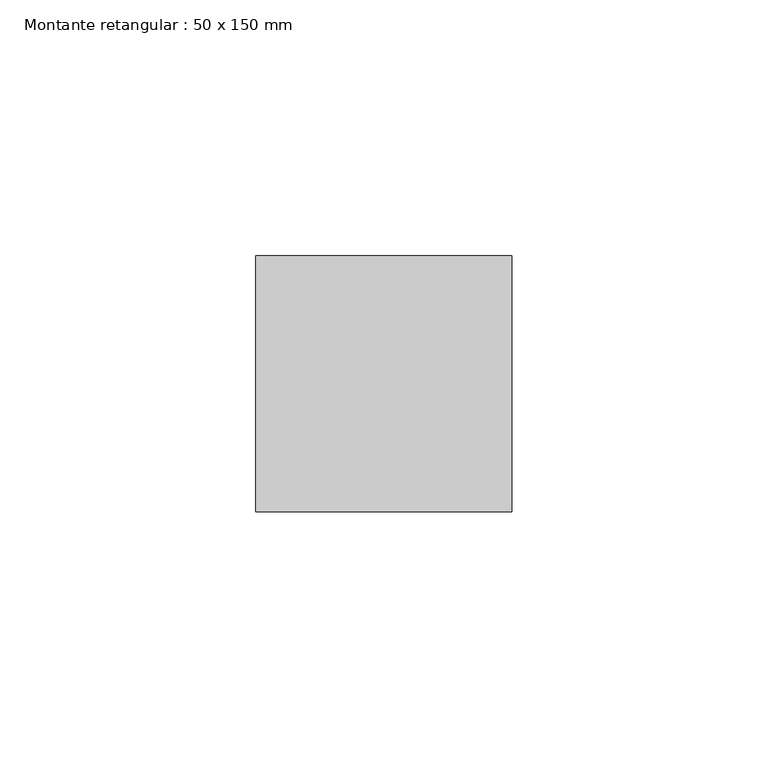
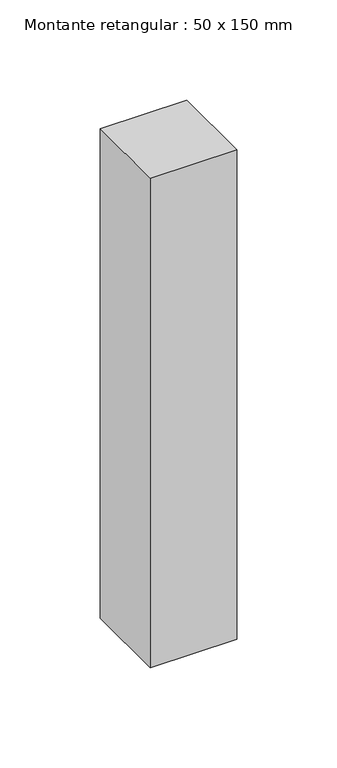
"""IFC4 building model written with IfcOpenShell, lengths in millimetres: member geometry, Montante retangular : 50 x 150 mm."""

from ifc_helpers import new_model, si_unit, frame, origin, place, context, project, spatial, polyline, outline, extrude, source, transform, mapped, element, save


def montante_retangular_50_x_150_mm_f8c01f2e(model_context):
    return source(origin(), model_context, "Body", "SweptSolid", [
        extrude(outline(polyline([(0.0, 25.0), (0.0, -25.0), (-50.0, -25.0), (-50.0, 25.0), (0.0, 25.0)])), frame((0.0, 0.0, -298.6217085), z_axis=(0.0, 0.0, 1.0), x_axis=(1.0, 0.0, 0.0)), (0.0, 0.0, 1.0), 298.6217085),
    ])


if __name__ == "__main__":
    model = new_model("IFC4")
    model_context = context("Model", 3, world=origin())
    ifc_project = project(units=[si_unit("LENGTHUNIT", "METRE", prefix="MILLI")], contexts=[model_context])
    site = spatial("IfcSite", under=ifc_project)
    building = spatial("IfcBuilding", under=site)
    placement = place(None, origin())
    montante_retangular_50_x_150_mm_shape = montante_retangular_50_x_150_mm_f8c01f2e(model_context)
    element("IfcMember", 1, ObjectType="Montante retangular : 50 x 150 mm", at=placement, inside=building, context=model_context, shape_type="MappedRepresentation", body=[
        mapped(montante_retangular_50_x_150_mm_shape, transform((0.0, 0.0, 0.0), x_axis=(1.0, 0.0, 0.0), y_axis=(0.0, 1.0, 0.0), z_axis=(0.0, 0.0, 1.0))),
    ])
    save(model, "model.ifc")
